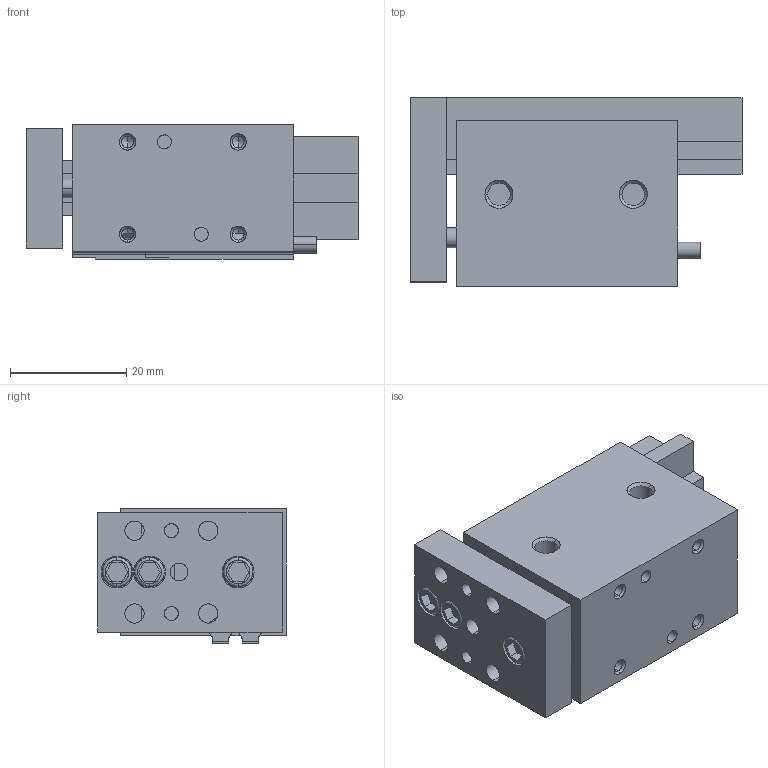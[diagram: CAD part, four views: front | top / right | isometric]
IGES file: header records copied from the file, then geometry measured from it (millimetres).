
Start section: SolidWorks IGES file using analytic representation for surfaces
Global section: file name: C:\Users\jmkuhnes\Pictures\My Transfers\AGMS\AGMS-1-1\AGMS-1-1 RETACTED in MM.IGS; native system: SolidWorks 2013; preprocessor: SolidWorks 2013; author: jmkuhnes; date: 141106.085715; units: millimetre
Bounding box: 57.15 x 32.49 x 23.2 mm (x, y, z)
Surface area: 15279.5 mm2 (no closed solid volume)
Topology: 0 solids, 0 shells, 293 faces, 4306 edges, 4294 vertices
Faces by surface type: revolution 158, bspline 135
